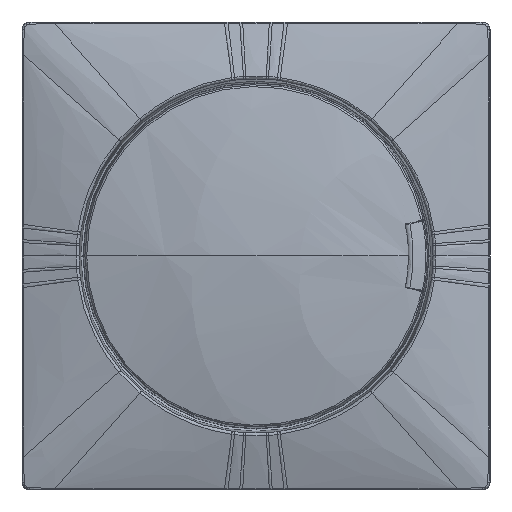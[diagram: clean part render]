
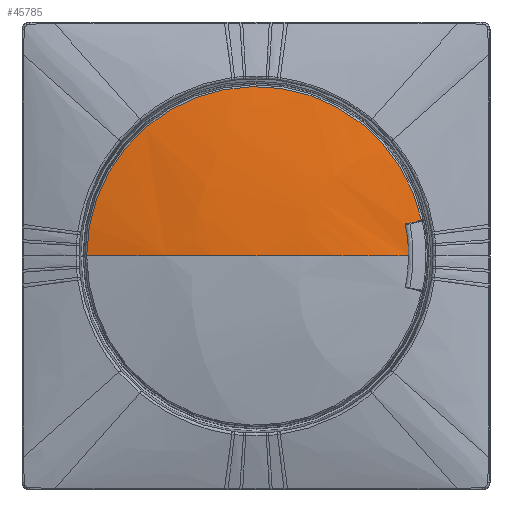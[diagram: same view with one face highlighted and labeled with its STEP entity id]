
A CAD part, top view. The second image highlights one B-rep face of the part: STEP entity #45785.
In plain terms, the highlighted spherical face has radius 97 mm.
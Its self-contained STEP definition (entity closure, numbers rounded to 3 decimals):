
#43515=CARTESIAN_POINT('',(20.914,3.611,
-4.508));
#43521=CARTESIAN_POINT('',(20.378,3.74,
-4.254));
#43565=CARTESIAN_POINT('',(19.043,4.03,
-3.966));
#43576=CARTESIAN_POINT('',(20.914,3.611,
-4.508));
#43577=CARTESIAN_POINT('',(20.891,3.617,
-4.503));
#43578=CARTESIAN_POINT('',(20.847,3.627,
-4.493));
#43579=CARTESIAN_POINT('',(20.787,3.641,
-4.478));
#43580=CARTESIAN_POINT('',(20.732,3.653,
-4.462));
#43581=CARTESIAN_POINT('',(20.683,3.665,
-4.446));
#43582=CARTESIAN_POINT('',(20.638,3.676,
-4.43));
#43583=CARTESIAN_POINT('',(20.597,3.685,
-4.414));
#43584=CARTESIAN_POINT('',(20.561,3.694,
-4.398));
#43585=CARTESIAN_POINT('',(20.527,3.702,
-4.382));
#43586=CARTESIAN_POINT('',(20.497,3.709,
-4.366));
#43587=CARTESIAN_POINT('',(20.471,3.715,
-4.351));
#43588=CARTESIAN_POINT('',(20.447,3.721,
-4.336));
#43589=CARTESIAN_POINT('',(20.427,3.726,
-4.32));
#43590=CARTESIAN_POINT('',(20.409,3.731,
-4.305));
#43591=CARTESIAN_POINT('',(20.395,3.735,
-4.29));
#43592=CARTESIAN_POINT('',(20.382,3.738,
-4.277));
#43593=CARTESIAN_POINT('',(20.38,3.739,
-4.26));
#43594=CARTESIAN_POINT('',(20.378,3.74,
-4.254));
#43596=CARTESIAN_POINT('',(20.378,3.74,
-4.254));
#43597=CARTESIAN_POINT('',(20.375,3.74,
-4.26));
#43598=CARTESIAN_POINT('',(20.368,3.742,
-4.267));
#43599=CARTESIAN_POINT('',(20.359,3.743,
-4.272));
#43600=CARTESIAN_POINT('',(20.348,3.745,
-4.277));
#43601=CARTESIAN_POINT('',(20.335,3.748,
-4.281));
#43602=CARTESIAN_POINT('',(20.32,3.751,
-4.284));
#43603=CARTESIAN_POINT('',(20.304,3.754,
-4.286));
#43604=CARTESIAN_POINT('',(20.287,3.758,
-4.288));
#43605=CARTESIAN_POINT('',(20.268,3.762,
-4.288));
#43606=CARTESIAN_POINT('',(20.247,3.766,
-4.289));
#43607=CARTESIAN_POINT('',(20.225,3.771,
-4.288));
#43608=CARTESIAN_POINT('',(20.2,3.776,
-4.286));
#43609=CARTESIAN_POINT('',(20.174,3.782,
-4.284));
#43610=CARTESIAN_POINT('',(20.145,3.788,
-4.28));
#43611=CARTESIAN_POINT('',(20.114,3.795,
-4.275));
#43612=CARTESIAN_POINT('',(20.091,3.8,
-4.271));
#43613=CARTESIAN_POINT('',(20.08,3.803,
-4.268));
#43615=CARTESIAN_POINT('',(0.,-91.,0.));
#43616=DIRECTION('',(0.208,0.,0.978));
#43617=DIRECTION('',(0.207,0.977,-0.044));
#43618=AXIS2_PLACEMENT_3D('',#43615,#43616,#43617);
#43620=CARTESIAN_POINT('',(19.117,4.011,
-4.064));
#43621=CARTESIAN_POINT('',(19.099,4.014,
-4.06));
#43622=CARTESIAN_POINT('',(19.069,4.021,
-4.045));
#43623=CARTESIAN_POINT('',(19.042,4.028,
-4.006));
#43624=CARTESIAN_POINT('',(19.04,4.03,
-3.98));
#43625=CARTESIAN_POINT('',(19.043,4.03,
-3.966));
#43627=CARTESIAN_POINT('',(0.,4.03,0.));
#43628=DIRECTION('',(0.,-1.,0.));
#43629=DIRECTION('',(0.979,0.,-0.204));
#43630=AXIS2_PLACEMENT_3D('',#43627,#43628,#43629);
#43632=CARTESIAN_POINT('',(0.,3.566,0.));
#43633=DIRECTION('',(0.,-1.,0.));
#43634=DIRECTION('',(-1.,0.,0.));
#43635=AXIS2_PLACEMENT_3D('',#43632,#43633,#43634);
#43637=CARTESIAN_POINT('',(-0.017,-91.,-0.078));
#43638=DIRECTION('',(0.207,0.,0.978));
#43639=DIRECTION('',(0.218,0.975,-0.046));
#43640=AXIS2_PLACEMENT_3D('',#43637,#43638,#43639);
#43722=CARTESIAN_POINT('',(-21.595,3.566,
-0.002));
#43723=CARTESIAN_POINT('',(-20.65,3.781,
-0.001));
#43724=CARTESIAN_POINT('',(-18.763,4.184,
0.));
#43725=CARTESIAN_POINT('',(-15.849,4.71,
0.));
#43726=CARTESIAN_POINT('',(-13.154,5.118,
0.));
#43727=CARTESIAN_POINT('',(-10.328,5.461,
0.));
#43728=CARTESIAN_POINT('',(-7.741,5.703,
0.));
#43729=CARTESIAN_POINT('',(-5.028,5.881,
0.));
#43730=CARTESIAN_POINT('',(-2.546,5.977,
0.002));
#43731=CARTESIAN_POINT('',(-0.844,6.,
-0.004));
#43732=CARTESIAN_POINT('',(0.,6.,
0.));
#43734=CARTESIAN_POINT('',(0.,6.,
0.));
#43735=CARTESIAN_POINT('',(1.006,6.,
0.005));
#43736=CARTESIAN_POINT('',(2.936,5.969,
-0.002));
#43737=CARTESIAN_POINT('',(5.574,5.851,
0.001));
#43738=CARTESIAN_POINT('',(7.956,5.682,
0.002));
#43739=CARTESIAN_POINT('',(9.375,5.548,
-0.004));
#43740=CARTESIAN_POINT('',(10.04,5.479,
0.));
#43742=CARTESIAN_POINT('',(10.04,5.479,
0.));
#43743=CARTESIAN_POINT('',(10.52,5.429,
0.001));
#43744=CARTESIAN_POINT('',(11.438,5.326,
-0.001));
#43745=CARTESIAN_POINT('',(12.679,5.17,
0.001));
#43746=CARTESIAN_POINT('',(13.814,5.013,
0.003));
#43747=CARTESIAN_POINT('',(14.86,4.857,
0.003));
#43748=CARTESIAN_POINT('',(15.839,4.7,
-0.004));
#43749=CARTESIAN_POINT('',(16.76,4.543,
0.002));
#43750=CARTESIAN_POINT('',(17.674,4.378,
-0.002));
#43751=CARTESIAN_POINT('',(18.533,4.214,
-0.001));
#43752=CARTESIAN_POINT('',(19.133,4.095,
-0.006));
#43753=CARTESIAN_POINT('',(19.452,4.03,
0.));
#45002=CARTESIAN_POINT('',(21.111,3.566,
-4.55));
#45003=VERTEX_POINT('',#45002);
#45006=VERTEX_POINT('',#43515);
#45007=VERTEX_POINT('',#43521);
#45019=CARTESIAN_POINT('',(20.08,3.803,
-4.268));
#45020=VERTEX_POINT('',#45019);
#45021=CARTESIAN_POINT('',(19.117,4.011,
-4.064));
#45022=VERTEX_POINT('',#45021);
#45023=VERTEX_POINT('',#43565);
#45024=CARTESIAN_POINT('',(19.452,4.03,
0.));
#45025=VERTEX_POINT('',#45024);
#45026=VERTEX_POINT('',#43742);
#45027=VERTEX_POINT('',#43734);
#45028=VERTEX_POINT('',#43722);
#45764=CARTESIAN_POINT('',(0.,-91.,0.));
#45765=DIRECTION('',(0.201,0.98,0.));
#45766=DIRECTION('',(0.897,-0.184,-0.403));
#45767=AXIS2_PLACEMENT_3D('',#45764,#45765,#45766);
#45768=SPHERICAL_SURFACE('',#45767,97.);
#45769=ORIENTED_EDGE('',*,*,#45689,.T.);
#45770=ORIENTED_EDGE('',*,*,#45732,.T.);
#45771=ORIENTED_EDGE('',*,*,#45759,.T.);
#45772=ORIENTED_EDGE('',*,*,#45747,.T.);
#45774=ORIENTED_EDGE('',*,*,#45773,.T.);
#45776=ORIENTED_EDGE('',*,*,#45775,.F.);
#45778=ORIENTED_EDGE('',*,*,#45777,.F.);
#45780=ORIENTED_EDGE('',*,*,#45779,.F.);
#45781=ORIENTED_EDGE('',*,*,#45498,.T.);
#45782=ORIENTED_EDGE('',*,*,#45552,.T.);
#45783=EDGE_LOOP('',(#45769,#45770,#45771,#45772,#45774,#45776,#45778,#45780,
#45781,#45782));
#45784=FACE_OUTER_BOUND('',#45783,.F.);
#45785=ADVANCED_FACE('',(#45784),#45768,.T.);
#43595=B_SPLINE_CURVE_WITH_KNOTS('',3,(#43576,#43577,#43578,#43579,#43580,
#43581,#43582,#43583,#43584,#43585,#43586,#43587,#43588,#43589,#43590,#43591,
#43592,#43593,#43594),.UNSPECIFIED.,.F.,.F.,(4,1,1,1,1,1,1,1,1,1,1,1,1,1,1,1,4),
(0.,0.063,0.125,0.188,0.25,0.313,0.375,0.438,0.5,0.563,
0.625,0.688,0.75,0.813,0.875,0.938,1.),.UNSPECIFIED.);
#43614=B_SPLINE_CURVE_WITH_KNOTS('',3,(#43596,#43597,#43598,#43599,#43600,
#43601,#43602,#43603,#43604,#43605,#43606,#43607,#43608,#43609,#43610,#43611,
#43612,#43613),.UNSPECIFIED.,.F.,.F.,(4,1,1,1,1,1,1,1,1,1,1,1,1,1,1,4),(0.,
0.067,0.133,0.2,0.267,0.333,
0.4,0.467,0.533,0.6,0.667,
0.733,0.8,0.867,0.933,1.),
.UNSPECIFIED.);
#43619=CIRCLE('',#43618,97.);
#43626=B_SPLINE_CURVE_WITH_KNOTS('',3,(#43620,#43621,#43622,#43623,#43624,
#43625),.UNSPECIFIED.,.F.,.F.,(4,1,1,4),(0.,0.333,
0.667,1.),.UNSPECIFIED.);
#43631=CIRCLE('',#43630,19.452);
#43636=CIRCLE('',#43635,21.595);
#43641=CIRCLE('',#43640,97.);
#43733=B_SPLINE_CURVE_WITH_KNOTS('',3,(#43722,#43723,#43724,#43725,#43726,
#43727,#43728,#43729,#43730,#43731,#43732),.UNSPECIFIED.,.F.,.F.,(4,1,1,1,1,1,1,
1,4),(0.,0.125,0.25,0.375,0.5,0.625,0.75,0.875,1.),
.UNSPECIFIED.);
#43741=B_SPLINE_CURVE_WITH_KNOTS('',3,(#43734,#43735,#43736,#43737,#43738,
#43739,#43740),.UNSPECIFIED.,.F.,.F.,(4,1,1,1,4),(0.,0.25,0.5,0.75,
1.),.UNSPECIFIED.);
#43754=B_SPLINE_CURVE_WITH_KNOTS('',3,(#43742,#43743,#43744,#43745,#43746,
#43747,#43748,#43749,#43750,#43751,#43752,#43753),.UNSPECIFIED.,.F.,.F.,(4,1,1,
1,1,1,1,1,1,4),(0.,0.111,0.222,0.333,
0.444,0.556,0.667,0.778,
0.889,1.),.UNSPECIFIED.);
#45498=EDGE_CURVE('',#45028,#45003,#43636,.T.);
#45552=EDGE_CURVE('',#45003,#45006,#43641,.T.);
#45689=EDGE_CURVE('',#45006,#45007,#43595,.T.);
#45732=EDGE_CURVE('',#45007,#45020,#43614,.T.);
#45747=EDGE_CURVE('',#45022,#45023,#43626,.T.);
#45759=EDGE_CURVE('',#45020,#45022,#43619,.T.);
#45773=EDGE_CURVE('',#45023,#45025,#43631,.T.);
#45775=EDGE_CURVE('',#45026,#45025,#43754,.T.);
#45777=EDGE_CURVE('',#45027,#45026,#43741,.T.);
#45779=EDGE_CURVE('',#45028,#45027,#43733,.T.);
